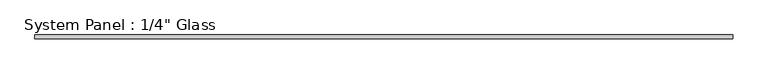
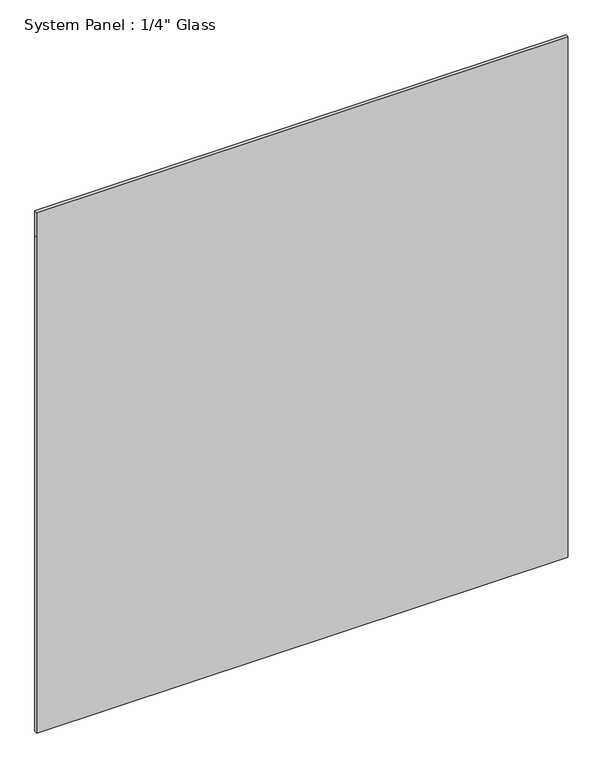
"""IFC4 building model written with IfcOpenShell, lengths in millimetres: plate geometry."""

from ifc_helpers import new_model, si_unit, frame, origin, place, context, project, spatial, polyline, outline, extrude, source, transform, mapped, element, save


def plate_0ceb05f0(model_context):
    return source(origin(), model_context, "Body", "SweptSolid", [
        extrude(outline(polyline([(0.0, -600.3538389), (0.0, 600.3538389), (1184.275, 600.3538389), (1242.5844027, 600.3538389), (1242.5844027, -600.3538389), (1184.275, -600.3538389), (0.0, -600.3538389)])), frame((0.0, -3.175, 0.0), z_axis=(0.0, 1.0, 0.0), x_axis=(0.0, 0.0, 1.0)), (0.0, 0.0, 1.0), 6.35),
    ])


if __name__ == "__main__":
    model = new_model("IFC4")
    model_context = context("Model", 3, world=origin())
    ifc_project = project(units=[si_unit("LENGTHUNIT", "METRE", prefix="MILLI")], contexts=[model_context])
    site = spatial("IfcSite", under=ifc_project)
    building = spatial("IfcBuilding", under=site)
    placement = place(None, origin())
    plate_shape = plate_0ceb05f0(model_context)
    element("IfcPlate", 1, ObjectType="System Panel : 1/4\" Glass", at=placement, inside=building, context=model_context, shape_type="MappedRepresentation", body=[
        mapped(plate_shape, transform((0.0, 0.0, 0.0), x_axis=(1.0, 0.0, 0.0), y_axis=(0.0, 1.0, 0.0), z_axis=(0.0, 0.0, 1.0))),
    ])
    save(model, "model.ifc")
